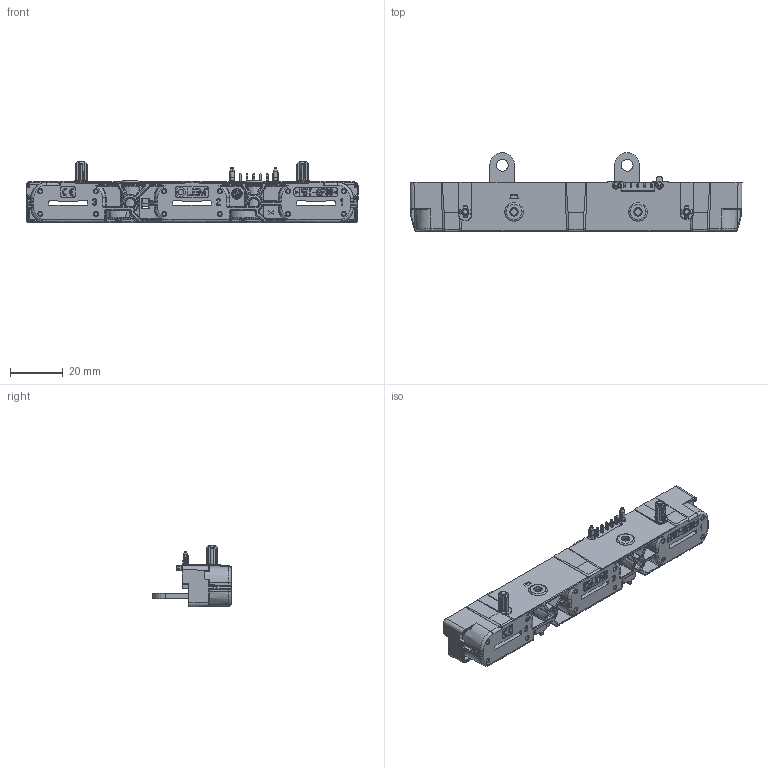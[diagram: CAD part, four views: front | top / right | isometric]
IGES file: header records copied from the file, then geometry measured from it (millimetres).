
Start section: Elysium IGES Interface
Global section: file name: C:\Users\mlm\Desktop\HAH3DR-S07_SP2_BBox_MLm_13.10.17.igs; native system: PTC Creo Elements/Direct Modeling 19.0E  27-Jun-2016; preprocessor: Creo Element/Direct IGES_3D V2.2; author: Unknown; organization: Unknown; date: 20171013.152853; units: millimetre
Bounding box: 125.9 x 29.75 x 23.45 mm (x, y, z)
Volume: 26883.6 mm3; surface area: 14486.1 mm2
Topology: 1 solids, 1 shells, 2724 faces, 7001 edges, 4325 vertices
Faces by surface type: bspline 2724
